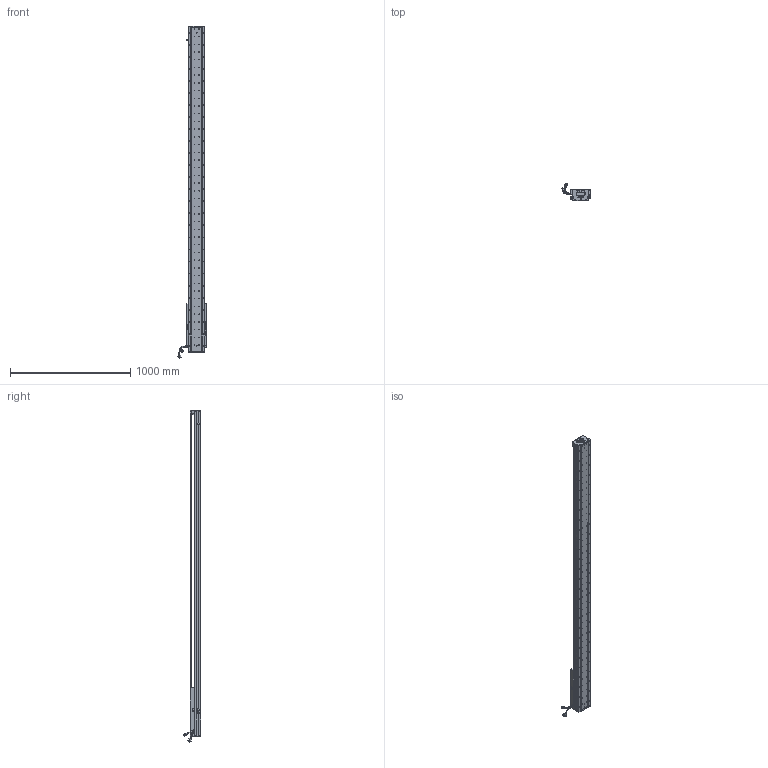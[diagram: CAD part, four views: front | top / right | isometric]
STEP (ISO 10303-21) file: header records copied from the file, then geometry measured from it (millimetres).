
FILE_DESCRIPTION (( 'STEP AP203' ), '1' );
FILE_NAME ('Z5-RY140D-1-L500-B-K.SLDASM_2250.step', '2021-05-17T08:39:23', ( '盈信电脑' ), ( '东莞市道滘镇水果街19号' ), 'SwSTEP 2.0', 'SolidWorks 2016', '' );
FILE_SCHEMA (( 'CONFIG_CONTROL_DESIGN' ));
Length unit declared in the file: millimetre
Products named in the file (36): SCREW-M1.6; 詩湍奻揤裔; SEAL; SCREW-M1.7-1; LABEL-Part-1; SEAL-Part-1; Z5-RY140-L500詩湍100mm遵_2250; Z5-RY140圉猾敕臏賑輸(21遴); Z-140詩湍傷裔啣; HARNESS-Part-1; 覜茼ん672; SCREW-M1.6-1; 140-Z-臏賑輸盄裔(21遴); COVER; SCREW-M1.6-3; SHIELDPLATE; COVER-Part-1; SCALE-Part-2; SCALE; HARNESS-Part-2; SCALE-Part-1; 140雄赽晤鎢ん堤盄; 詩湍狟揤裔; LABEL; 榋妏寠巭燃_暯_M2_2; SCREW-M1.6-2; Z-RY140感应器672光电感应片; 080黍杅芛假蚾釱21遴; Z5-RY140-L500直线电机模组底座_2250; 140蚥薯蝶輸; Z5-RY140D-1-L500-B-K.SLDASM_2250; SCREW-M1.7; HOLDER0; PSLH080_PSLF2; HARNESS; PBU_SHEET
Assembly tree (41 placements, depth 4):
  Z5-RY140D-1-L500-B-K.SLDASM_2250
    Z5-RY140-L500直线电机模组底座_2250
    Z-RY140感应器672光电感应片
    Z5-RY140圉猾敕臏賑輸(21遴)
    覜茼ん672  x3
    Z5-RY140-L500詩湍100mm遵_2250
    PSLH080_PSLF2
      SCALE
        SCALE-Part-1
        SCALE-Part-2
      HARNESS
        HARNESS-Part-1
        HARNESS-Part-2
      LABEL
        LABEL-Part-1
      COVER
        COVER-Part-1
      SEAL
        SEAL-Part-1
      榋妏寠巭燃_暯_M2_2
      SHIELDPLATE
      SCREW-M1.7
      SCREW-M1.7-1
      PBU_SHEET
      SCREW-M1.6
      SCREW-M1.6-1
      SCREW-M1.6-2
      SCREW-M1.6-3
      HOLDER0
    080黍杅芛假蚾釱21遴
    140-Z-臏賑輸盄裔(21遴)
    Z-140詩湍傷裔啣  x2
    詩湍狟揤裔  x2
    詩湍奻揤裔  x2
    140蚥薯蝶輸  x2
    140雄赽晤鎢ん堤盄
Bounding box: 239.79 x 143.88 x 2755.87 mm (x, y, z)
Volume: 9188925.1 mm3; surface area: 2355766.4 mm2
Topology: 36 solids, 36 shells, 4258 faces, 11594 edges, 7349 vertices
Faces by surface type: cylinder 2332, plane 1394, cone 410, torus 69, bspline 53
Entity records: 135638 total; most frequent: CARTESIAN_POINT 38289, ORIENTED_EDGE 20092, DIRECTION 18630, EDGE_CURVE 10046, AXIS2_PLACEMENT_3D 6954, VERTEX_POINT 6517, VECTOR 4722, LINE 4722
